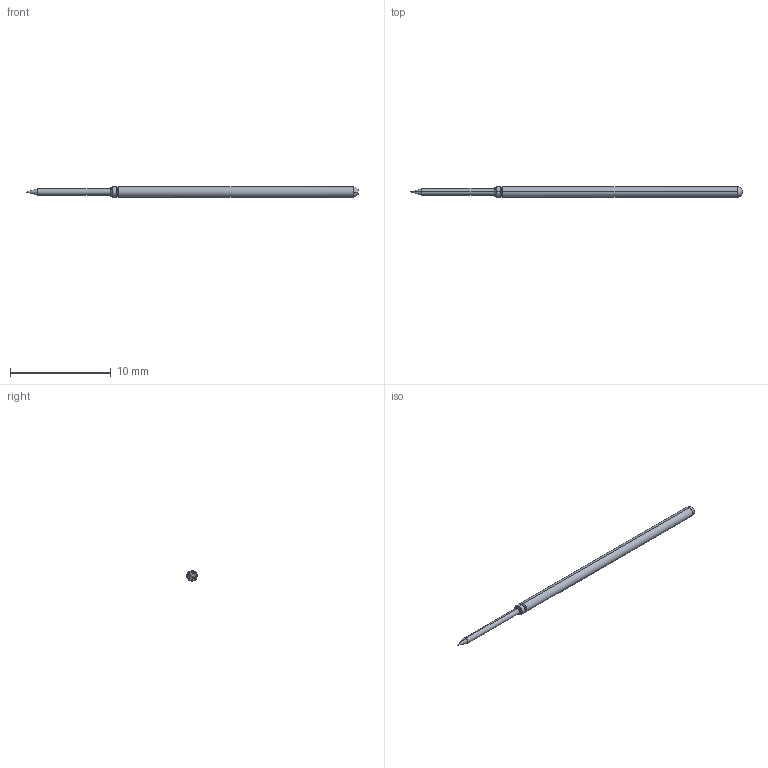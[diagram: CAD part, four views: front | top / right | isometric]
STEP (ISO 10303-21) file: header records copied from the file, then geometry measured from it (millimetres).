
FILE_DESCRIPTION (( 'STEP AP214' ), '1' );
FILE_NAME ('LPA2B.STEP', '2023-06-05T10:58:05', ( '' ), ( '' ), 'SwSTEP 2.0', 'SolidWorks 2022', '' );
FILE_SCHEMA (( 'AUTOMOTIVE_DESIGN' ));
Length unit declared in the file: inch
Products named in the file (1): LPA2B
Bounding box: 33.02 x 1.02 x 1.02 mm (x, y, z)
Volume: 22 mm3; surface area: 94.2 mm2
Topology: 1 solids, 1 shells, 20 faces, 42 edges, 23 vertices
Faces by surface type: bspline 20
Entity records: 731 total; most frequent: CARTESIAN_POINT 459, ORIENTED_EDGE 80, EDGE_CURVE 40, VERTEX_POINT 23, EDGE_LOOP 21, FACE_OUTER_BOUND 20, ADVANCED_FACE 20, B_SPLINE_CURVE_WITH_KNOTS 18
